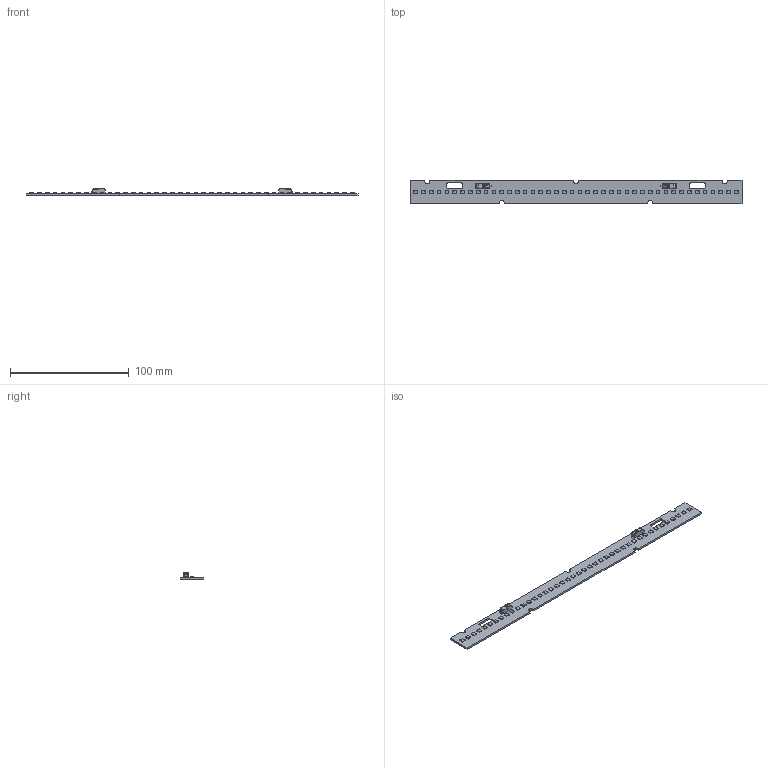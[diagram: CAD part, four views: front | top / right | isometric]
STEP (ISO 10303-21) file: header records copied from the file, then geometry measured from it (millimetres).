
FILE_DESCRIPTION(/* description */ (''),/* implementation_level */ '2;1');
FILE_NAME(/* name */ 'C:\Data\Vault\LE-TPD\9290 028 02100_Fortimo LED Strip 1ft 3000lm FC HV6\Fortimo LED Strip 1ft 3000lm FC HV6 2020-07-10.stp',/* time_stamp */ '2020-07-10T08:23:45+02:00',/* author */ ('plr05507'),/* organization */ (''),/* preprocessor_version */ 'ST-DEVELOPER v16.5',/* originating_system */ 'Autodesk Inventor 2017',/* authorisation */ '');
FILE_SCHEMA (('AUTOMOTIVE_DESIGN { 1 0 10303 214 3 1 1 }'));
Length unit declared in the file: millimetre
Products named in the file (1): 4422-951-40320
Bounding box: 279.2 x 20 x 6.1 mm (x, y, z)
Volume: 9253.1 mm3; surface area: 12856.3 mm2
Topology: 3 solids, 3 shells, 680 faces, 2124 edges, 1616 vertices
Faces by surface type: plane 565, cylinder 71, bspline 22, torus 20, sphere 2
Full cylindrical faces by diameter (mm): 2.2 x2
Entity records: 25031 total; most frequent: CARTESIAN_POINT 5141, ORIENTED_EDGE 4228, DIRECTION 3762, EDGE_CURVE 2112, LINE 1712, VECTOR 1712, VERTEX_POINT 1610, AXIS2_PLACEMENT_3D 1025
